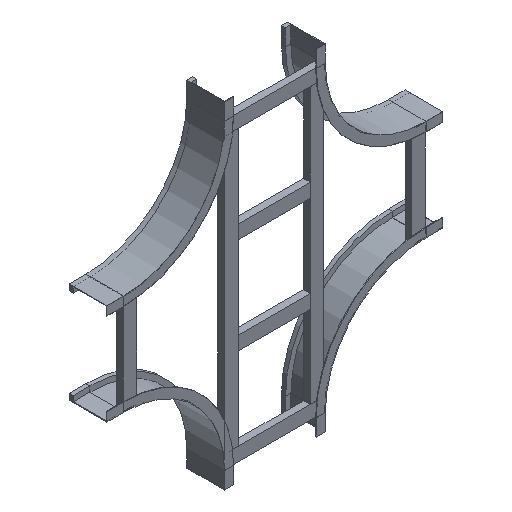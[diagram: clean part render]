
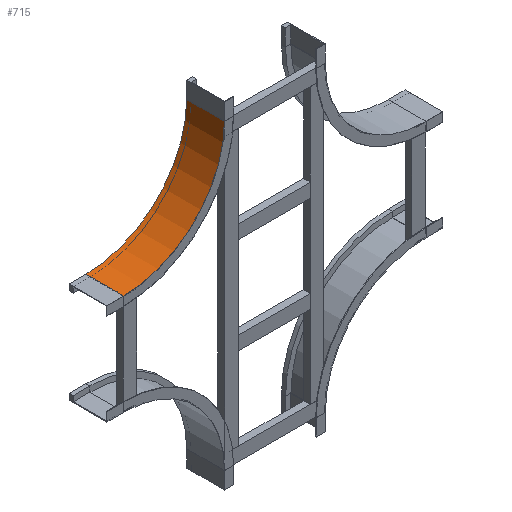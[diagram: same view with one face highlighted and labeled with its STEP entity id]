
A CAD part, isometric view. The second image highlights one B-rep face of the part: STEP entity #715.
In plain terms, the highlighted cylindrical face has radius 300 mm (diameter 600 mm), a partial arc.
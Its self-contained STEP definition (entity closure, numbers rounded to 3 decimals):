
#39 = VERTEX_POINT ( 'NONE', #1198 ) ;
#53 = CARTESIAN_POINT ( 'NONE',  ( 0., 0., -50. ) ) ;
#64 = EDGE_LOOP ( 'NONE', ( #590, #973, #384, #921 ) ) ;
#98 = CYLINDRICAL_SURFACE ( 'NONE', #1267, 300. ) ;
#155 = VECTOR ( 'NONE', #195, 1000. ) ;
#195 = DIRECTION ( 'NONE',  ( 0., 1., 0. ) ) ;
#303 = FACE_OUTER_BOUND ( 'NONE', #64, .T. ) ;
#340 = CARTESIAN_POINT ( 'NONE',  ( 0., 112.5, -50. ) ) ;
#384 = ORIENTED_EDGE ( 'NONE', *, *, #1124, .T. ) ;
#475 = CARTESIAN_POINT ( 'NONE',  ( 300., 0., -50. ) ) ;
#483 = DIRECTION ( 'NONE',  ( 0., -1., 0. ) ) ;
#543 = VERTEX_POINT ( 'NONE', #1365 ) ;
#569 = EDGE_CURVE ( 'NONE', #39, #1035, #1029, .T. ) ;
#574 = AXIS2_PLACEMENT_3D ( 'NONE', #1119, #483, #692 ) ;
#590 = ORIENTED_EDGE ( 'NONE', *, *, #1250, .F. ) ;
#640 = LINE ( 'NONE', #646, #155 ) ;
#646 = CARTESIAN_POINT ( 'NONE',  ( 300., 0., -350. ) ) ;
#692 = DIRECTION ( 'NONE',  ( -1., 0., 0. ) ) ;
#707 = DIRECTION ( 'NONE',  ( 0., -1., 0. ) ) ;
#715 = ADVANCED_FACE ( 'NONE', ( #303 ), #98, .F. ) ;
#717 = DIRECTION ( 'NONE',  ( 0., 1., 0. ) ) ;
#897 = CARTESIAN_POINT ( 'NONE',  ( 300., 0., -350. ) ) ;
#907 = EDGE_CURVE ( 'NONE', #1063, #543, #640, .T. ) ;
#921 = ORIENTED_EDGE ( 'NONE', *, *, #907, .T. ) ;
#944 = DIRECTION ( 'NONE',  ( 0., -1., 0. ) ) ;
#971 = VECTOR ( 'NONE', #717, 1000. ) ;
#973 = ORIENTED_EDGE ( 'NONE', *, *, #569, .F. ) ;
#1029 = LINE ( 'NONE', #53, #971 ) ;
#1034 = DIRECTION ( 'NONE',  ( -1., 0., 0. ) ) ;
#1035 = VERTEX_POINT ( 'NONE', #340 ) ;
#1052 = CARTESIAN_POINT ( 'NONE',  ( 300., 0., -50. ) ) ;
#1063 = VERTEX_POINT ( 'NONE', #897 ) ;
#1114 = CIRCLE ( 'NONE', #574, 300. ) ;
#1119 = CARTESIAN_POINT ( 'NONE',  ( 300., 112.5, -50. ) ) ;
#1124 = EDGE_CURVE ( 'NONE', #39, #1063, #1176, .T. ) ;
#1159 = DIRECTION ( 'NONE',  ( 0., 0., -1. ) ) ;
#1176 = CIRCLE ( 'NONE', #1244, 300. ) ;
#1198 = CARTESIAN_POINT ( 'NONE',  ( 0., 0., -50. ) ) ;
#1244 = AXIS2_PLACEMENT_3D ( 'NONE', #475, #707, #1034 ) ;
#1250 = EDGE_CURVE ( 'NONE', #1035, #543, #1114, .T. ) ;
#1267 = AXIS2_PLACEMENT_3D ( 'NONE', #1052, #944, #1159 ) ;
#1365 = CARTESIAN_POINT ( 'NONE',  ( 300., 112.5, -350. ) ) ;
